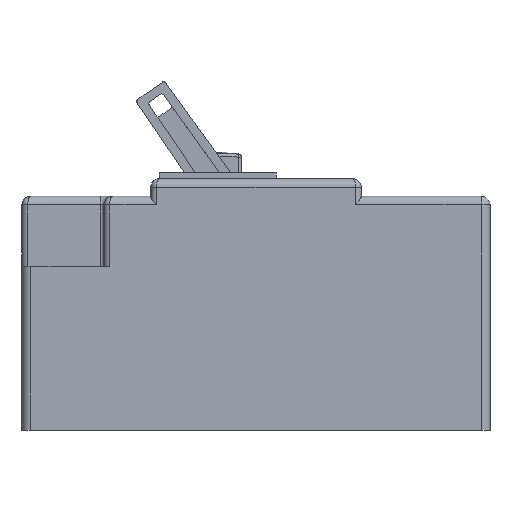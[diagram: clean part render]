
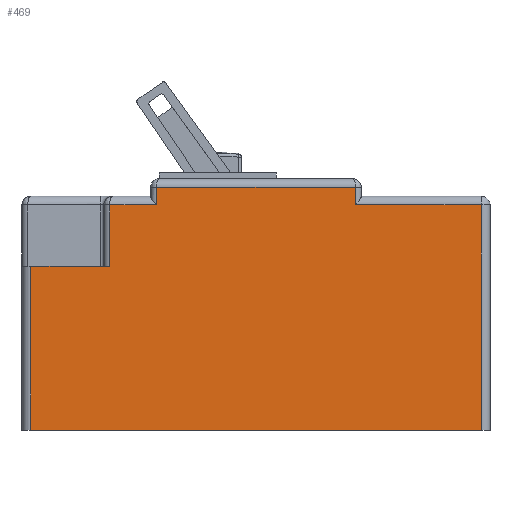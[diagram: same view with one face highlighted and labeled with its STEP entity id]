
A CAD part, left-side view. The second image highlights one B-rep face of the part: STEP entity #469.
In plain terms, the highlighted planar face has unit normal (-1, 0, 0).
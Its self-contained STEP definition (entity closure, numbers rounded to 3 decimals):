
#469=ADVANCED_FACE('',(#1174),#913,.F.);
#913=PLANE('',#8049);
#1174=FACE_OUTER_BOUND('',#1625,.T.);
#1625=EDGE_LOOP('',(#2700,#2701,#2702,#2703,#2704,#2705,#2706,#2707,#2708,
#2709));
#2700=ORIENTED_EDGE('',*,*,#5660,.T.);
#2701=ORIENTED_EDGE('',*,*,#5661,.T.);
#2702=ORIENTED_EDGE('',*,*,#5662,.T.);
#2703=ORIENTED_EDGE('',*,*,#5663,.T.);
#2704=ORIENTED_EDGE('',*,*,#5664,.T.);
#2705=ORIENTED_EDGE('',*,*,#5665,.T.);
#2706=ORIENTED_EDGE('',*,*,#5666,.T.);
#2707=ORIENTED_EDGE('',*,*,#5562,.F.);
#2708=ORIENTED_EDGE('',*,*,#5667,.T.);
#2709=ORIENTED_EDGE('',*,*,#5583,.F.);
#4824=VERTEX_POINT('',#11394);
#4825=VERTEX_POINT('',#11396);
#4841=VERTEX_POINT('',#11438);
#4842=VERTEX_POINT('',#11440);
#4912=VERTEX_POINT('',#11593);
#4913=VERTEX_POINT('',#11595);
#4914=VERTEX_POINT('',#11597);
#4915=VERTEX_POINT('',#11599);
#4916=VERTEX_POINT('',#11601);
#4917=VERTEX_POINT('',#11603);
#5562=EDGE_CURVE('',#4824,#4825,#6648,.T.);
#5583=EDGE_CURVE('',#4841,#4842,#6659,.T.);
#5660=EDGE_CURVE('',#4841,#4912,#6706,.T.);
#5661=EDGE_CURVE('',#4912,#4913,#6707,.T.);
#5662=EDGE_CURVE('',#4913,#4914,#6708,.T.);
#5663=EDGE_CURVE('',#4914,#4915,#6709,.T.);
#5664=EDGE_CURVE('',#4915,#4916,#6710,.T.);
#5665=EDGE_CURVE('',#4916,#4917,#6711,.T.);
#5666=EDGE_CURVE('',#4917,#4825,#6712,.T.);
#5667=EDGE_CURVE('',#4824,#4842,#6713,.T.);
#6648=LINE('',#11395,#7359);
#6659=LINE('',#11439,#7370);
#6706=LINE('',#11592,#7417);
#6707=LINE('',#11594,#7418);
#6708=LINE('',#11596,#7419);
#6709=LINE('',#11598,#7420);
#6710=LINE('',#11600,#7421);
#6711=LINE('',#11602,#7422);
#6712=LINE('',#11604,#7423);
#6713=LINE('',#11605,#7424);
#7359=VECTOR('',#8975,1.);
#7370=VECTOR('',#9018,1.);
#7417=VECTOR('',#9137,1.);
#7418=VECTOR('',#9138,1.);
#7419=VECTOR('',#9139,1.);
#7420=VECTOR('',#9140,1.);
#7421=VECTOR('',#9141,1.);
#7422=VECTOR('',#9142,1.);
#7423=VECTOR('',#9143,1.);
#7424=VECTOR('',#9144,1.);
#8049=AXIS2_PLACEMENT_3D('',#11606,#9145,#9146);
#8975=DIRECTION('',(0.,-1.,0.));
#9018=DIRECTION('',(0.,1.,0.));
#9137=DIRECTION('',(0.,0.,1.));
#9138=DIRECTION('',(0.,1.,0.));
#9139=DIRECTION('',(0.,0.,1.));
#9140=DIRECTION('',(0.,1.,0.));
#9141=DIRECTION('',(0.,0.,-1.));
#9142=DIRECTION('',(0.,1.,0.));
#9143=DIRECTION('',(0.,0.,-1.));
#9144=DIRECTION('',(0.,0.,-1.));
#9145=DIRECTION('',(1.,0.,0.));
#9146=DIRECTION('',(0.,1.,0.));
#11394=CARTESIAN_POINT('',(-45.,-1.5,28.));
#11395=CARTESIAN_POINT('',(-45.,-80.,28.));
#11396=CARTESIAN_POINT('',(-45.,-15.,28.));
#11438=CARTESIAN_POINT('',(-45.,-78.5,0.));
#11439=CARTESIAN_POINT('',(-45.,-80.,0.));
#11440=CARTESIAN_POINT('',(-45.,-1.5,0.));
#11592=CARTESIAN_POINT('',(-45.,-78.5,0.));
#11593=CARTESIAN_POINT('',(-45.,-78.5,38.5));
#11594=CARTESIAN_POINT('',(-45.,-80.,38.5));
#11595=CARTESIAN_POINT('',(-45.,-57.,38.5));
#11596=CARTESIAN_POINT('',(-45.,-57.,0.));
#11597=CARTESIAN_POINT('',(-45.,-57.,41.5));
#11598=CARTESIAN_POINT('',(-45.,-23.,41.5));
#11599=CARTESIAN_POINT('',(-45.,-23.,41.5));
#11600=CARTESIAN_POINT('',(-45.,-23.,0.));
#11601=CARTESIAN_POINT('',(-45.,-23.,38.5));
#11602=CARTESIAN_POINT('',(-45.,-80.,38.5));
#11603=CARTESIAN_POINT('',(-45.,-15.,38.5));
#11604=CARTESIAN_POINT('',(-45.,-15.,0.));
#11605=CARTESIAN_POINT('',(-45.,-1.5,0.));
#11606=CARTESIAN_POINT('',(-45.,-80.,0.));
